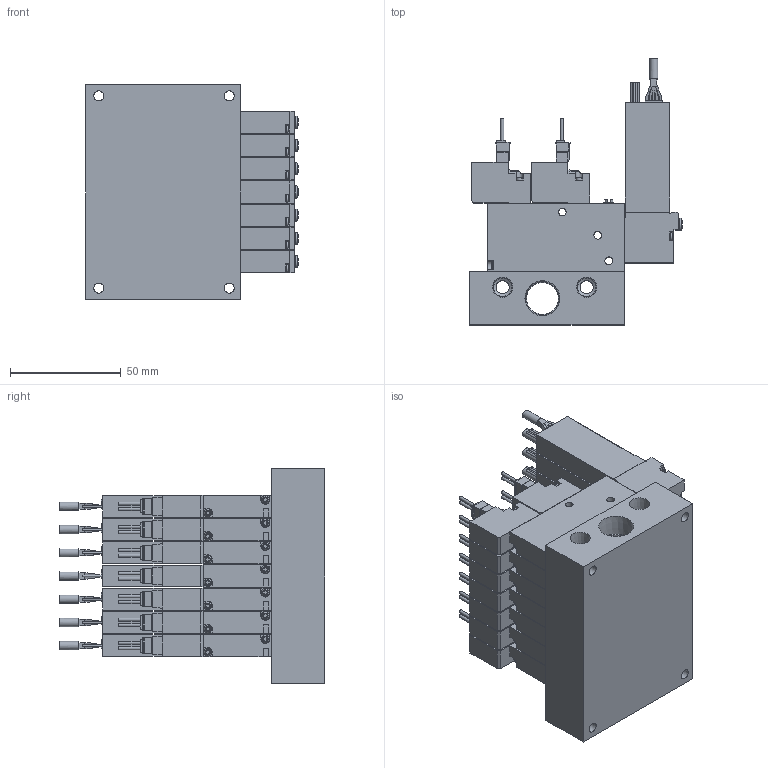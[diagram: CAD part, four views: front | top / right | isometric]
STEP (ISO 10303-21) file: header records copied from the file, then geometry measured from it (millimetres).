
FILE_DESCRIPTION(('STEP AP203'),'1');
FILE_NAME('BMPV42M10.10P.10PS5A(B)707.stp','2025-04-30T06:22:51',(' '),(' '),'Spatial InterOp 3D',' ',' ');
FILE_SCHEMA(('CONFIG_CONTROL_DESIGN'));
Length unit declared in the file: millimetre
Products named in the file (13): BMPV42M10.10P.10PS5A(B)707; VACUUM VALVE FUNCTION MPV42-A; VACUUM SENSOR MPV42-10; UNIT-MPV42; MC4-M7
Assembly tree (29 placements, depth 2):
  BMPV42M10.10P.10PS5A(B)707
    VACUUM VALVE FUNCTION MPV42-A  x10
    VACUUM SENSOR MPV42-10  x5
    UNIT-MPV42  x5
    VACUUM VALVE FUNCTION MPV42-A
    VACUUM VALVE FUNCTION MPV42-A
    UNIT-MPV42
    VACUUM SENSOR MPV42-10
    MC4-M7
    VACUUM VALVE FUNCTION MPV42-A
    VACUUM VALVE FUNCTION MPV42-A
    UNIT-MPV42
    VACUUM SENSOR MPV42-10
Bounding box: 96.35 x 120.3 x 97 mm (x, y, z)
Volume: 441329.9 mm3; surface area: 145002.9 mm2
Topology: 29 solids, 29 shells, 2749 faces, 7405 edges, 4910 vertices
Faces by surface type: plane 2134, cylinder 501, cone 44, sphere 35, torus 35
Full cylindrical faces by diameter (mm): 0.9 x28, 1.4 x28, 1.8 x7, 2.2 x14, 3 x28, 3.5 x77, 3.8 x7, 4.134 x14, 4.5 x4, 5 x7, 5.5 x7, 6 x2, 8.2 x4, 14.5 x1
Entity records: 34301 total; most frequent: CARTESIAN_POINT 6614, DIRECTION 5461, ORIENTED_EDGE 5434, EDGE_CURVE 2717, LINE 2097, VECTOR 2097, VERTEX_POINT 1881, AXIS2_PLACEMENT_3D 1682
